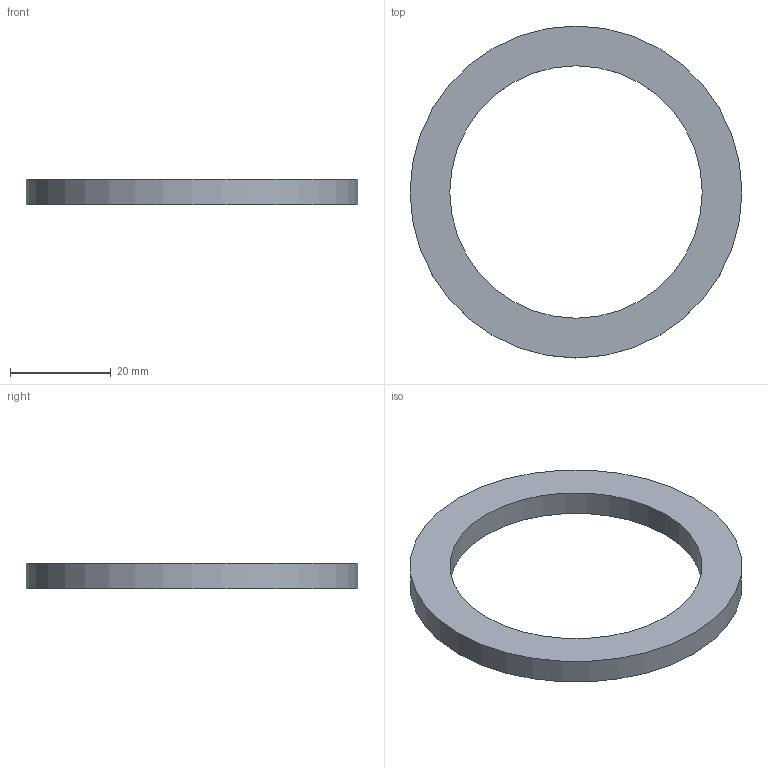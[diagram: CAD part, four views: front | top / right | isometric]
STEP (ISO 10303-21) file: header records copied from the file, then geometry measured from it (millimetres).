
FILE_DESCRIPTION(('Open CASCADE Model'),'2;1');
FILE_NAME('Open CASCADE Shape Model','2026-10-02T15:58:28',('Author'),( 'Open CASCADE'),'Open CASCADE STEP processor 8.0','build123d', 'Unknown');
FILE_SCHEMA(('AUTOMOTIVE_DESIGN { 1 0 10303 214 1 1 1 1 }'));
Length unit declared in the file: millimetre
Products named in the file (1): COMPOUND
Bounding box: 66 x 66 x 5 mm (x, y, z)
Volume: 7209.8 mm3; surface area: 4709.2 mm2
Topology: 1 solids, 1 shells, 4 faces, 6 edges, 4 vertices
Faces by surface type: cylinder 2, plane 2
Full cylindrical faces by diameter (mm): 50.2 x1, 66 x1
Entity records: 186 total; most frequent: DIRECTION 32, CARTESIAN_POINT 27, ORIENTED_EDGE 12, PCURVE 12, DEFINITIONAL_REPRESENTATION 12, LINE 10, VECTOR 10, AXIS2_PLACEMENT_3D 9
